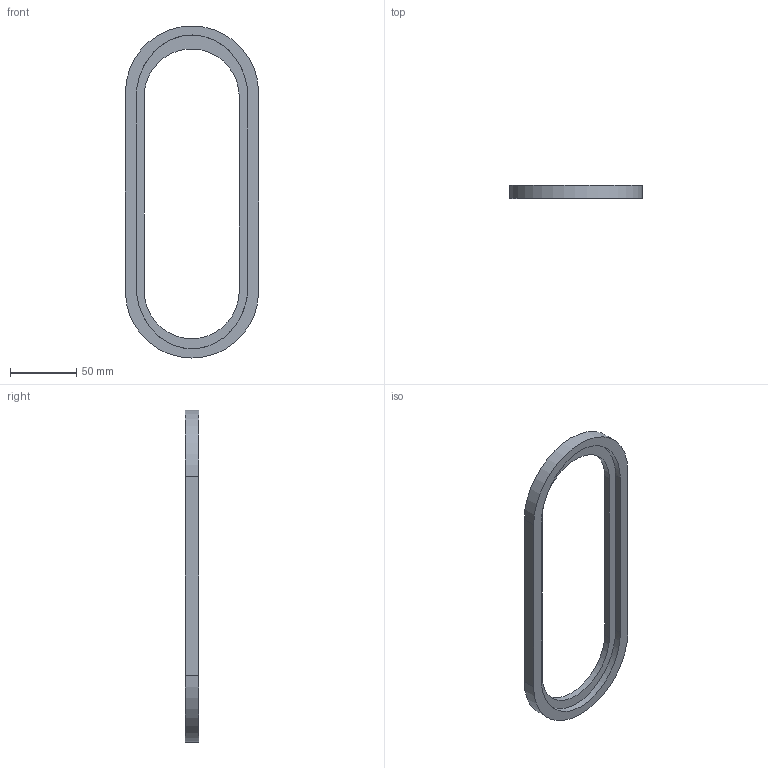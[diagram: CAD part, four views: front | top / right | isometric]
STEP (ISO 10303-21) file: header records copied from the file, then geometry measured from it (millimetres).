
FILE_DESCRIPTION(/* description */ ('STEP AP242 Edition 2','CAx-IF Rec.Pracs.---Representation and Presentation of Product Manufacturing Information (PMI)---4.0---2014-10-13','CAx-IF Rec.Pracs.---3D Tessellated Geometry---0.4---2014-09-14','2;1','CAx-IF Rec.Pracs.---User Defined Attributes---1.5---2016-08-15'),/* implementation_level */ '2;1');
FILE_NAME(/* name */ 'Part Studio 1 - Part 3',/* time_stamp */ '2026-10-19T00:09:51Z',/* author */ (''),/* organization */ (''),/* preprocessor_version */ 'ST-DEVELOPER v20',/* originating_system */ 'ONSHAPE BY PTC INC, 1.222',/* authorisation */ ' ');
FILE_SCHEMA (('AP242_MANAGED_MODEL_BASED_3D_ENGINEERING_MIM_LF { 1 0 10303 442 3 1 4 }'));
Length unit declared in the file: metre
Products named in the file (1): Part 3
Bounding box: 100.4 x 10 x 250.35 mm (x, y, z)
Volume: 65700.6 mm3; surface area: 28456.6 mm2
Topology: 1 solids, 1 shells, 15 faces, 36 edges, 24 vertices
Faces by surface type: plane 9, cylinder 4, bspline 2
Entity records: 544 total; most frequent: CARTESIAN_POINT 158, DIRECTION 76, ORIENTED_EDGE 72, EDGE_CURVE 36, AXIS2_PLACEMENT_3D 26, VERTEX_POINT 24, LINE 24, VECTOR 24
